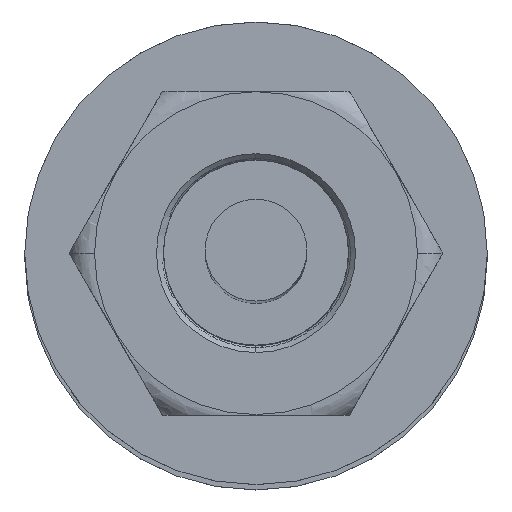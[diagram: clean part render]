
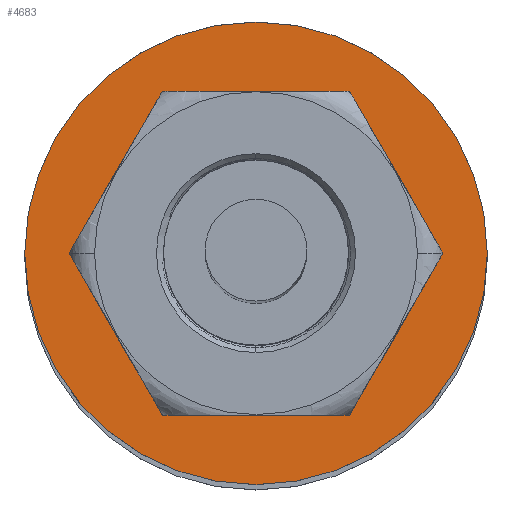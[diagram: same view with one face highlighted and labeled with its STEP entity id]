
A CAD part, top view. The second image highlights one B-rep face of the part: STEP entity #4683.
In plain terms, the highlighted planar face has unit normal (0, 0, 1).
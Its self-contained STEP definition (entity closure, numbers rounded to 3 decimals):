
#105 = DIRECTION ( 'NONE',  ( 0., 0., 1. ) ) ;
#110 = AXIS2_PLACEMENT_3D ( 'NONE', #11213, #6777, #1032 ) ;
#376 = CARTESIAN_POINT ( 'NONE',  ( 5., 0., 0.5 ) ) ;
#1032 = DIRECTION ( 'NONE',  ( 1., 0., 0. ) ) ;
#1183 = VERTEX_POINT ( 'NONE', #376 ) ;
#1258 = ORIENTED_EDGE ( 'NONE', *, *, #7830, .F. ) ;
#1537 = EDGE_CURVE ( 'NONE', #1183, #4501, #11935, .T. ) ;
#1657 = CIRCLE ( 'NONE', #8575, 2.25 ) ;
#1690 = PLANE ( 'NONE',  #8998 ) ;
#2043 = DIRECTION ( 'NONE',  ( 1., 0., 0. ) ) ;
#3333 = CARTESIAN_POINT ( 'NONE',  ( 0., 0., 0.5 ) ) ;
#3349 = CARTESIAN_POINT ( 'NONE',  ( -5., 0., 0.5 ) ) ;
#3381 = DIRECTION ( 'NONE',  ( 0., 0., 1. ) ) ;
#3429 = CIRCLE ( 'NONE', #11900, 2.25 ) ;
#4181 = DIRECTION ( 'NONE',  ( 1., 0., 0. ) ) ;
#4243 = CARTESIAN_POINT ( 'NONE',  ( 2.25, 0., 0.5 ) ) ;
#4296 = DIRECTION ( 'NONE',  ( 0., 0., 1. ) ) ;
#4476 = DIRECTION ( 'NONE',  ( 1., 0., 0. ) ) ;
#4501 = VERTEX_POINT ( 'NONE', #3349 ) ;
#4683 = ADVANCED_FACE ( 'NONE', ( #10786, #11764 ), #1690, .T. ) ;
#4733 = VERTEX_POINT ( 'NONE', #4243 ) ;
#4890 = EDGE_CURVE ( 'NONE', #4733, #7873, #3429, .T. ) ;
#5332 = CIRCLE ( 'NONE', #110, 5. ) ;
#6777 = DIRECTION ( 'NONE',  ( 0., 0., 1. ) ) ;
#6883 = ORIENTED_EDGE ( 'NONE', *, *, #4890, .F. ) ;
#7524 = AXIS2_PLACEMENT_3D ( 'NONE', #10603, #3381, #4181 ) ;
#7830 = EDGE_CURVE ( 'NONE', #7873, #4733, #1657, .T. ) ;
#7873 = VERTEX_POINT ( 'NONE', #8480 ) ;
#8426 = DIRECTION ( 'NONE',  ( 1., 0., 0. ) ) ;
#8480 = CARTESIAN_POINT ( 'NONE',  ( -2.25, 0., 0.5 ) ) ;
#8538 = EDGE_LOOP ( 'NONE', ( #11164, #9175 ) ) ;
#8575 = AXIS2_PLACEMENT_3D ( 'NONE', #10287, #10406, #2043 ) ;
#8998 = AXIS2_PLACEMENT_3D ( 'NONE', #3333, #4296, #4476 ) ;
#9090 = CARTESIAN_POINT ( 'NONE',  ( 0., 0., 0.5 ) ) ;
#9175 = ORIENTED_EDGE ( 'NONE', *, *, #1537, .T. ) ;
#10287 = CARTESIAN_POINT ( 'NONE',  ( 0., 0., 0.5 ) ) ;
#10321 = EDGE_CURVE ( 'NONE', #4501, #1183, #5332, .T. ) ;
#10406 = DIRECTION ( 'NONE',  ( 0., 0., 1. ) ) ;
#10603 = CARTESIAN_POINT ( 'NONE',  ( 0., 0., 0.5 ) ) ;
#10786 = FACE_OUTER_BOUND ( 'NONE', #8538, .T. ) ;
#11164 = ORIENTED_EDGE ( 'NONE', *, *, #10321, .T. ) ;
#11194 = EDGE_LOOP ( 'NONE', ( #1258, #6883 ) ) ;
#11213 = CARTESIAN_POINT ( 'NONE',  ( 0., 0., 0.5 ) ) ;
#11764 = FACE_BOUND ( 'NONE', #11194, .T. ) ;
#11900 = AXIS2_PLACEMENT_3D ( 'NONE', #9090, #105, #8426 ) ;
#11935 = CIRCLE ( 'NONE', #7524, 5. ) ;
